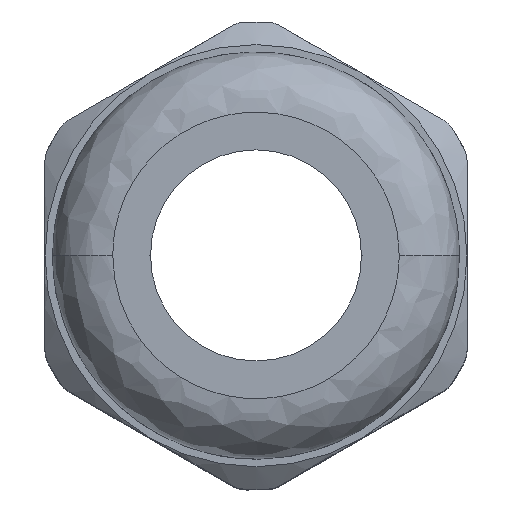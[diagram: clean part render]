
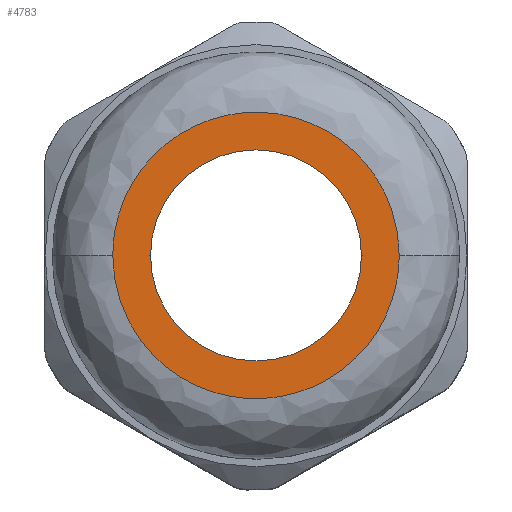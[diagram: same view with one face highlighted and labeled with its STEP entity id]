
A CAD part, top view. The second image highlights one B-rep face of the part: STEP entity #4783.
In plain terms, the highlighted planar face has unit normal (0, 0, 1).
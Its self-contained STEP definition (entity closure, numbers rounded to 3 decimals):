
#21 = CARTESIAN_POINT ( 'NONE',  ( 4.626, -1.244, 6.5 ) ) ;
#93 = CARTESIAN_POINT ( 'NONE',  ( -0.621, -4.75, 6.5 ) ) ;
#107 = AXIS2_PLACEMENT_3D ( 'NONE', #140, #7434, #12307 ) ;
#140 = CARTESIAN_POINT ( 'NONE',  ( 0., 0., 6.5 ) ) ;
#167 = CARTESIAN_POINT ( 'NONE',  ( -4.151, -2.392, 6.5 ) ) ;
#246 = CARTESIAN_POINT ( 'NONE',  ( 4.75, 0., 6.5 ) ) ;
#576 = VERTEX_POINT ( 'NONE', #11510 ) ;
#1452 = CARTESIAN_POINT ( 'NONE',  ( -4.719, -0.62, 6.5 ) ) ;
#1635 = CARTESIAN_POINT ( 'NONE',  ( -4.597, 1.233, 6.5 ) ) ;
#2065 = CARTESIAN_POINT ( 'NONE',  ( 4.75, 0., 6.5 ) ) ;
#2828 = CARTESIAN_POINT ( 'NONE',  ( 3.798, 2.92, 6.5 ) ) ;
#2991 = CARTESIAN_POINT ( 'NONE',  ( -3.798, 2.92, 6.5 ) ) ;
#3050 = CARTESIAN_POINT ( 'NONE',  ( 0., 6.75, 6.5 ) ) ;
#3069 = CARTESIAN_POINT ( 'NONE',  ( 4.75, 0., 6.5 ) ) ;
#3119 = B_SPLINE_CURVE_WITH_KNOTS ( 'NONE', 3,
 ( #9927, #3683, #1452, #14736, #9857, #167, #9775, #14808, #10979, #12328, #93, #8732, #7615, #13374, #5135, #8502, #7310, #21, #13529, #246 ),
 .UNSPECIFIED., .F., .F.,
 ( 4, 2, 2, 2, 2, 2, 2, 2, 2, 4 ),
 ( 0., 0.031, 0.063, 0.125, 0.188, 0.25, 0.313, 0.375, 0.438, 0.5 ),
 .UNSPECIFIED. ) ;
#3272 = ORIENTED_EDGE ( 'NONE', *, *, #15535, .T. ) ;
#3399 = EDGE_CURVE ( 'NONE', #9661, #8774, #7180, .T. ) ;
#3683 = CARTESIAN_POINT ( 'NONE',  ( -4.75, -0.311, 6.5 ) ) ;
#4028 = CARTESIAN_POINT ( 'NONE',  ( 4.151, 2.392, 6.5 ) ) ;
#4120 = CARTESIAN_POINT ( 'NONE',  ( -4.719, 0.62, 6.5 ) ) ;
#4175 = DIRECTION ( 'NONE',  ( 0., 0., 1. ) ) ;
#4198 = CARTESIAN_POINT ( 'NONE',  ( -4.75, 0., 6.5 ) ) ;
#4711 = CIRCLE ( 'NONE', #15704, 3.5 ) ;
#4783 = ADVANCED_FACE ( 'NONE', ( #11698, #13853 ), #7699, .T. ) ;
#5135 = CARTESIAN_POINT ( 'NONE',  ( 2.92, -3.798, 6.5 ) ) ;
#5255 = ORIENTED_EDGE ( 'NONE', *, *, #3399, .T. ) ;
#5542 = EDGE_LOOP ( 'NONE', ( #13680, #3272 ) ) ;
#5582 = CARTESIAN_POINT ( 'NONE',  ( 1.244, 4.626, 6.5 ) ) ;
#5719 = CARTESIAN_POINT ( 'NONE',  ( -4.75, 0., 6.5 ) ) ;
#6177 = EDGE_LOOP ( 'NONE', ( #15321, #5255 ) ) ;
#6524 = CARTESIAN_POINT ( 'NONE',  ( 2.92, 3.798, 6.5 ) ) ;
#6688 = CARTESIAN_POINT ( 'NONE',  ( -4.151, 2.391, 6.5 ) ) ;
#7105 = DIRECTION ( 'NONE',  ( -1., 0., 0. ) ) ;
#7180 = B_SPLINE_CURVE_WITH_KNOTS ( 'NONE', 3,
 ( #3069, #13875, #12595, #4028, #2828, #6524, #10190, #5582, #10507, #9086, #7721, #8917, #7800, #2991, #6688, #7965, #1635, #4120, #9243, #4198 ),
 .UNSPECIFIED., .F., .F.,
 ( 4, 2, 2, 2, 2, 2, 2, 2, 2, 4 ),
 ( 0.5, 0.563, 0.625, 0.688, 0.75, 0.813, 0.875, 0.938, 0.969, 1. ),
 .UNSPECIFIED. ) ;
#7278 = CIRCLE ( 'NONE', #107, 3.5 ) ;
#7310 = CARTESIAN_POINT ( 'NONE',  ( 4.151, -2.391, 6.5 ) ) ;
#7434 = DIRECTION ( 'NONE',  ( 0., 0., -1. ) ) ;
#7615 = CARTESIAN_POINT ( 'NONE',  ( 1.244, -4.626, 6.5 ) ) ;
#7699 = PLANE ( 'NONE',  #11366 ) ;
#7721 = CARTESIAN_POINT ( 'NONE',  ( -1.244, 4.626, 6.5 ) ) ;
#7800 = CARTESIAN_POINT ( 'NONE',  ( -2.92, 3.798, 6.5 ) ) ;
#7965 = CARTESIAN_POINT ( 'NONE',  ( -4.507, 1.531, 6.5 ) ) ;
#8117 = CARTESIAN_POINT ( 'NONE',  ( -3.5, 0., 6.5 ) ) ;
#8502 = CARTESIAN_POINT ( 'NONE',  ( 3.798, -2.92, 6.5 ) ) ;
#8732 = CARTESIAN_POINT ( 'NONE',  ( 0.621, -4.75, 6.5 ) ) ;
#8774 = VERTEX_POINT ( 'NONE', #5719 ) ;
#8917 = CARTESIAN_POINT ( 'NONE',  ( -2.392, 4.151, 6.5 ) ) ;
#9086 = CARTESIAN_POINT ( 'NONE',  ( -0.621, 4.75, 6.5 ) ) ;
#9243 = CARTESIAN_POINT ( 'NONE',  ( -4.75, 0.311, 6.5 ) ) ;
#9661 = VERTEX_POINT ( 'NONE', #2065 ) ;
#9775 = CARTESIAN_POINT ( 'NONE',  ( -3.798, -2.92, 6.5 ) ) ;
#9857 = CARTESIAN_POINT ( 'NONE',  ( -4.507, -1.531, 6.5 ) ) ;
#9927 = CARTESIAN_POINT ( 'NONE',  ( -4.75, 0., 6.5 ) ) ;
#10190 = CARTESIAN_POINT ( 'NONE',  ( 2.391, 4.151, 6.5 ) ) ;
#10507 = CARTESIAN_POINT ( 'NONE',  ( 0.621, 4.75, 6.5 ) ) ;
#10953 = VERTEX_POINT ( 'NONE', #8117 ) ;
#10979 = CARTESIAN_POINT ( 'NONE',  ( -2.391, -4.151, 6.5 ) ) ;
#11272 = EDGE_CURVE ( 'NONE', #8774, #9661, #3119, .T. ) ;
#11366 = AXIS2_PLACEMENT_3D ( 'NONE', #3050, #4175, #12571 ) ;
#11510 = CARTESIAN_POINT ( 'NONE',  ( 3.5, 0., 6.5 ) ) ;
#11698 = FACE_OUTER_BOUND ( 'NONE', #6177, .T. ) ;
#12307 = DIRECTION ( 'NONE',  ( -1., 0., 0. ) ) ;
#12328 = CARTESIAN_POINT ( 'NONE',  ( -1.244, -4.626, 6.5 ) ) ;
#12571 = DIRECTION ( 'NONE',  ( 1., 0., 0. ) ) ;
#12595 = CARTESIAN_POINT ( 'NONE',  ( 4.626, 1.244, 6.5 ) ) ;
#13374 = CARTESIAN_POINT ( 'NONE',  ( 2.392, -4.151, 6.5 ) ) ;
#13529 = CARTESIAN_POINT ( 'NONE',  ( 4.75, -0.621, 6.5 ) ) ;
#13680 = ORIENTED_EDGE ( 'NONE', *, *, #14907, .T. ) ;
#13853 = FACE_BOUND ( 'NONE', #5542, .T. ) ;
#13875 = CARTESIAN_POINT ( 'NONE',  ( 4.75, 0.621, 6.5 ) ) ;
#14736 = CARTESIAN_POINT ( 'NONE',  ( -4.598, -1.233, 6.5 ) ) ;
#14808 = CARTESIAN_POINT ( 'NONE',  ( -2.92, -3.798, 6.5 ) ) ;
#14907 = EDGE_CURVE ( 'NONE', #10953, #576, #7278, .T. ) ;
#15321 = ORIENTED_EDGE ( 'NONE', *, *, #11272, .T. ) ;
#15513 = DIRECTION ( 'NONE',  ( 0., 0., -1. ) ) ;
#15535 = EDGE_CURVE ( 'NONE', #576, #10953, #4711, .T. ) ;
#15665 = CARTESIAN_POINT ( 'NONE',  ( 0., 0., 6.5 ) ) ;
#15704 = AXIS2_PLACEMENT_3D ( 'NONE', #15665, #15513, #7105 ) ;
